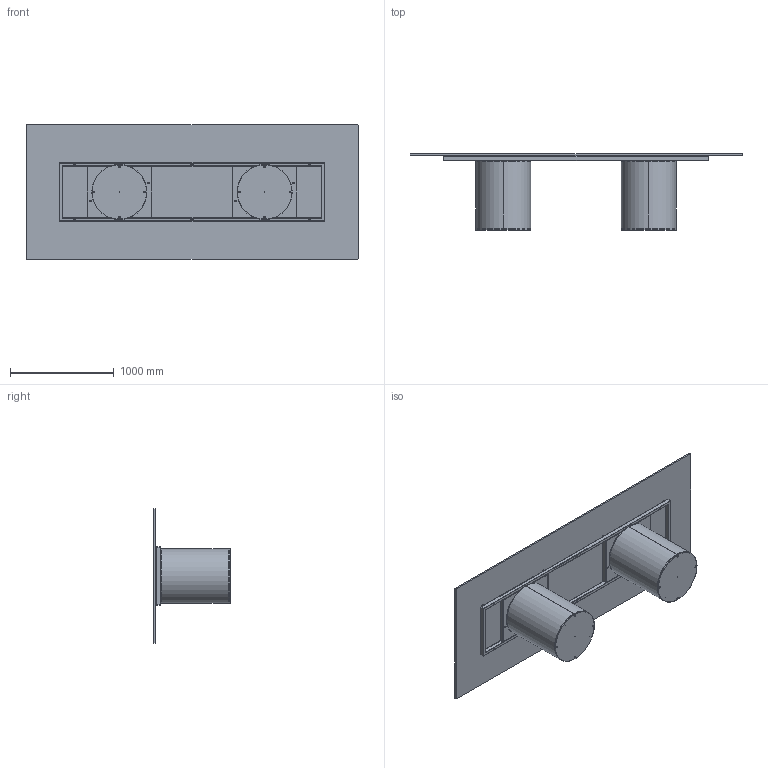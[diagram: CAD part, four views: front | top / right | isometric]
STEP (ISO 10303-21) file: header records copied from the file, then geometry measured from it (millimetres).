
FILE_DESCRIPTION (( 'STEP AP203' ), '1' );
FILE_NAME ('CI25G.STEP', '2024-08-08T07:10:13', ( '' ), ( '' ), 'SwSTEP 2.0', 'SolidWorks 2022', '' );
FILE_SCHEMA (( 'CONFIG_CONTROL_DESIGN' ));
Length unit declared in the file: millimetre
Products named in the file (11): C2B000000-03-CILINDRO BASE D.530mm_Normale; CI25G; TTAV03_01-06-RING TUBO TELAIO UNIVERSALE X TAVOLI 300-340cm; 434070-00-PIEDINO TPV GOMMA NERO D. 30x8max18_filo estetico; TTAV03_02-06-VASSOIO IRRIGIDIMENTO TELAIO UNIVERSALE RETTANGOLARE; C2XCRXX-00-Piani Rettangolari Cristallo_25 3200x1300; C2B000000_02-01-ZAVORRA IN FERRO D.530mm; C2B000000_01-00-struttura cilindro D.530mm; M8xXXmm_hex_M8X20mm; TTAV03-06-TELAIO UNIVERSALE X TAVOLI 300-340cm; COLLO TELAIO UNIVERSALE TTAV03 CON FERRAMENTA_MTG TOP CRISTALLO VERNICIATO-CERAMICA
Assembly tree (22 placements, depth 4):
  CI25G
    C2B000000-03-CILINDRO BASE D.530mm_Normale  x2
      C2B000000_01-00-struttura cilindro D.530mm
      C2B000000_02-01-ZAVORRA IN FERRO D.530mm
      M8xXXmm_hex_M8X20mm
    COLLO TELAIO UNIVERSALE TTAV03 CON FERRAMENTA_MTG TOP CRISTALLO VERNICIATO-CERAMICA
      TTAV03-06-TELAIO UNIVERSALE X TAVOLI 300-340cm
        TTAV03_01-06-RING TUBO TELAIO UNIVERSALE X TAVOLI 300-340cm
        TTAV03_02-06-VASSOIO IRRIGIDIMENTO TELAIO UNIVERSALE RETTANGOLARE  x2
      434070-00-PIEDINO TPV GOMMA NERO D. 30x8max18_filo estetico  x8
    C2XCRXX-00-Piani Rettangolari Cristallo_25 3200x1300
Bounding box: 3200 x 735 x 1300 mm (x, y, z)
Volume: 77074536.8 mm3; surface area: 17529634 mm2
Topology: 38 solids, 38 shells, 974 faces, 2204 edges, 1284 vertices
Faces by surface type: plane 446, cylinder 348, cone 96, torus 48, sphere 36
Entity records: 13561 total; most frequent: DIRECTION 2240, CARTESIAN_POINT 2041, ORIENTED_EDGE 1964, EDGE_CURVE 982, AXIS2_PLACEMENT_3D 828, VERTEX_POINT 597, VECTOR 584, LINE 584
